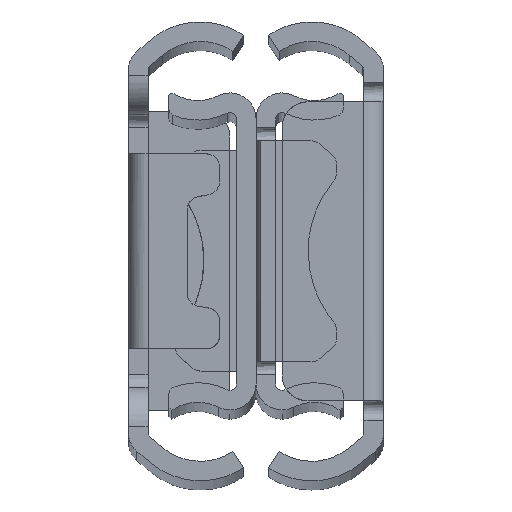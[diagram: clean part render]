
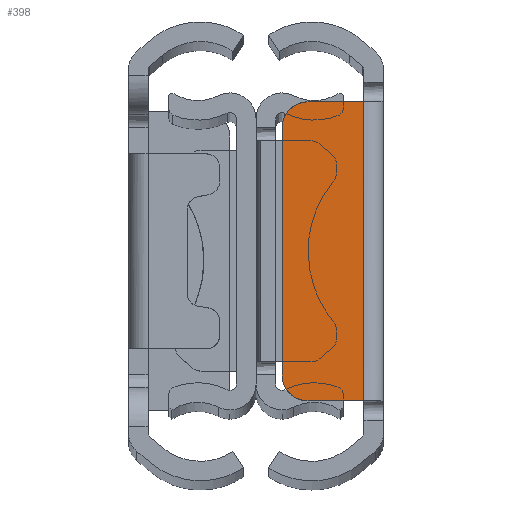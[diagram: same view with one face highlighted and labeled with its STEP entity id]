
A CAD part, top view. The second image highlights one B-rep face of the part: STEP entity #398.
In plain terms, the highlighted planar face has unit normal (0, 0, 1) as drawn and (0, 0, -1) by its records, which use the part's own axes.
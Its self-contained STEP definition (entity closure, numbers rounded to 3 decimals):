
#70 = ORIENTED_EDGE ( 'NONE', *, *, #150, .F. ) ;
#86 = CARTESIAN_POINT ( 'NONE',  ( 211.852, -10.023, 101.6 ) ) ;
#150 = EDGE_CURVE ( 'NONE', #3578, #5198, #2377, .T. ) ;
#295 = CARTESIAN_POINT ( 'NONE',  ( 218.1, -11.5, 101.6 ) ) ;
#323 = CARTESIAN_POINT ( 'NONE',  ( 212.052, 10.507, 101.6 ) ) ;
#361 = CARTESIAN_POINT ( 'NONE',  ( 213.8, 11.5, 101.6 ) ) ;
#363 = VERTEX_POINT ( 'NONE', #295 ) ;
#398 = ADVANCED_FACE ( 'NONE', ( #3241 ), #1208, .F. ) ;
#413 = CARTESIAN_POINT ( 'NONE',  ( 211.8, -9.5, 101.6 ) ) ;
#416 = CARTESIAN_POINT ( 'NONE',  ( 212.201, 10.729, 101.6 ) ) ;
#502 = CARTESIAN_POINT ( 'NONE',  ( 218.1, -3.833, 101.6 ) ) ;
#598 = EDGE_CURVE ( 'NONE', #5198, #5839, #5994, .T. ) ;
#673 = VERTEX_POINT ( 'NONE', #361 ) ;
#797 = ORIENTED_EDGE ( 'NONE', *, *, #598, .F. ) ;
#1106 = CARTESIAN_POINT ( 'NONE',  ( 216.667, 11.5, 101.6 ) ) ;
#1208 = PLANE ( 'NONE',  #1729 ) ;
#1296 = CARTESIAN_POINT ( 'NONE',  ( 213.277, 11.448, 101.6 ) ) ;
#1350 = EDGE_CURVE ( 'NONE', #3800, #673, #5599, .T. ) ;
#1536 = EDGE_CURVE ( 'NONE', #673, #3578, #3115, .T. ) ;
#1575 = ORIENTED_EDGE ( 'NONE', *, *, #3515, .F. ) ;
#1675 = CARTESIAN_POINT ( 'NONE',  ( 211.8, 9.5, 101.6 ) ) ;
#1729 = AXIS2_PLACEMENT_3D ( 'NONE', #4193, #2737, #6127 ) ;
#1838 = CARTESIAN_POINT ( 'NONE',  ( 211.8, 3.167, 101.6 ) ) ;
#1842 = CARTESIAN_POINT ( 'NONE',  ( 211.8, 9.762, 101.6 ) ) ;
#1876 = CARTESIAN_POINT ( 'NONE',  ( 218.1, 3.833, 101.6 ) ) ;
#2107 = CARTESIAN_POINT ( 'NONE',  ( 211.8, -9.762, 101.6 ) ) ;
#2238 = CARTESIAN_POINT ( 'NONE',  ( 212.793, 11.248, 101.6 ) ) ;
#2302 = CARTESIAN_POINT ( 'NONE',  ( 211.8, -3.167, 101.6 ) ) ;
#2329 = ORIENTED_EDGE ( 'NONE', *, *, #3078, .F. ) ;
#2377 = B_SPLINE_CURVE_WITH_KNOTS ( 'NONE', 3,
 ( #1675, #1838, #2302, #413 ),
 .UNSPECIFIED., .F., .F.,
 ( 4, 4 ),
 ( 0., 1. ),
 .UNSPECIFIED. ) ;
#2424 = CARTESIAN_POINT ( 'NONE',  ( 213.8, -11.5, 101.6 ) ) ;
#2476 = CARTESIAN_POINT ( 'NONE',  ( 213.8, 11.5, 101.6 ) ) ;
#2535 = CARTESIAN_POINT ( 'NONE',  ( 213.538, -11.5, 101.6 ) ) ;
#2690 = CARTESIAN_POINT ( 'NONE',  ( 215.233, 11.5, 101.6 ) ) ;
#2723 = CARTESIAN_POINT ( 'NONE',  ( 211.8, 9.5, 101.6 ) ) ;
#2737 = DIRECTION ( 'NONE',  ( 0., 0., 1. ) ) ;
#2784 = CARTESIAN_POINT ( 'NONE',  ( 213.8, 11.5, 101.6 ) ) ;
#3078 = EDGE_CURVE ( 'NONE', #5839, #363, #5121, .T. ) ;
#3115 = B_SPLINE_CURVE_WITH_KNOTS ( 'NONE', 3,
 ( #2784, #4275, #1296, #2238, #5635, #416, #323, #5727, #1842, #2723 ),
 .UNSPECIFIED., .F., .F.,
 ( 4, 2, 2, 2, 4 ),
 ( 0., 0.25, 0.5, 0.75, 1. ),
 .UNSPECIFIED. ) ;
#3241 = FACE_OUTER_BOUND ( 'NONE', #5307, .T. ) ;
#3380 = CARTESIAN_POINT ( 'NONE',  ( 218.1, -11.5, 101.6 ) ) ;
#3515 = EDGE_CURVE ( 'NONE', #363, #3800, #4579, .T. ) ;
#3578 = VERTEX_POINT ( 'NONE', #4967 ) ;
#3587 = CARTESIAN_POINT ( 'NONE',  ( 212.201, -10.729, 101.6 ) ) ;
#3800 = VERTEX_POINT ( 'NONE', #4390 ) ;
#3884 = CARTESIAN_POINT ( 'NONE',  ( 215.233, -11.5, 101.6 ) ) ;
#3998 = CARTESIAN_POINT ( 'NONE',  ( 218.1, 11.5, 101.6 ) ) ;
#4059 = CARTESIAN_POINT ( 'NONE',  ( 212.052, -10.507, 101.6 ) ) ;
#4193 = CARTESIAN_POINT ( 'NONE',  ( 214.4, 13.74, 101.6 ) ) ;
#4275 = CARTESIAN_POINT ( 'NONE',  ( 213.538, 11.5, 101.6 ) ) ;
#4390 = CARTESIAN_POINT ( 'NONE',  ( 218.1, 11.5, 101.6 ) ) ;
#4424 = CARTESIAN_POINT ( 'NONE',  ( 213.8, -11.5, 101.6 ) ) ;
#4579 = B_SPLINE_CURVE_WITH_KNOTS ( 'NONE', 3,
 ( #5763, #502, #1876, #5854 ),
 .UNSPECIFIED., .F., .F.,
 ( 4, 4 ),
 ( 0., 1. ),
 .UNSPECIFIED. ) ;
#4861 = CARTESIAN_POINT ( 'NONE',  ( 216.667, -11.5, 101.6 ) ) ;
#4914 = CARTESIAN_POINT ( 'NONE',  ( 211.8, -9.5, 101.6 ) ) ;
#4925 = CARTESIAN_POINT ( 'NONE',  ( 211.8, -9.5, 101.6 ) ) ;
#4946 = CARTESIAN_POINT ( 'NONE',  ( 212.571, -11.099, 101.6 ) ) ;
#4967 = CARTESIAN_POINT ( 'NONE',  ( 211.8, 9.5, 101.6 ) ) ;
#5038 = CARTESIAN_POINT ( 'NONE',  ( 212.793, -11.248, 101.6 ) ) ;
#5121 = B_SPLINE_CURVE_WITH_KNOTS ( 'NONE', 3,
 ( #2424, #3884, #4861, #3380 ),
 .UNSPECIFIED., .F., .F.,
 ( 4, 4 ),
 ( 0., 1. ),
 .UNSPECIFIED. ) ;
#5198 = VERTEX_POINT ( 'NONE', #4925 ) ;
#5307 = EDGE_LOOP ( 'NONE', ( #70, #6177, #5741, #1575, #2329, #797 ) ) ;
#5599 = B_SPLINE_CURVE_WITH_KNOTS ( 'NONE', 3,
 ( #3998, #1106, #2690, #2476 ),
 .UNSPECIFIED., .F., .F.,
 ( 4, 4 ),
 ( 0., 1. ),
 .UNSPECIFIED. ) ;
#5635 = CARTESIAN_POINT ( 'NONE',  ( 212.571, 11.099, 101.6 ) ) ;
#5727 = CARTESIAN_POINT ( 'NONE',  ( 211.852, 10.023, 101.6 ) ) ;
#5741 = ORIENTED_EDGE ( 'NONE', *, *, #1350, .F. ) ;
#5763 = CARTESIAN_POINT ( 'NONE',  ( 218.1, -11.5, 101.6 ) ) ;
#5839 = VERTEX_POINT ( 'NONE', #4424 ) ;
#5854 = CARTESIAN_POINT ( 'NONE',  ( 218.1, 11.5, 101.6 ) ) ;
#5893 = CARTESIAN_POINT ( 'NONE',  ( 213.277, -11.448, 101.6 ) ) ;
#5923 = CARTESIAN_POINT ( 'NONE',  ( 213.8, -11.5, 101.6 ) ) ;
#5994 = B_SPLINE_CURVE_WITH_KNOTS ( 'NONE', 3,
 ( #4914, #2107, #86, #4059, #3587, #4946, #5038, #5893, #2535, #5923 ),
 .UNSPECIFIED., .F., .F.,
 ( 4, 2, 2, 2, 4 ),
 ( 0., 0.25, 0.5, 0.75, 1. ),
 .UNSPECIFIED. ) ;
#6127 = DIRECTION ( 'NONE',  ( 0., -1., 0. ) ) ;
#6177 = ORIENTED_EDGE ( 'NONE', *, *, #1536, .F. ) ;
